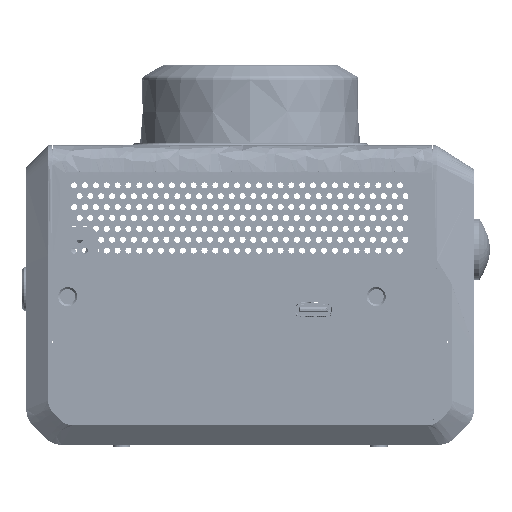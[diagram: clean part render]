
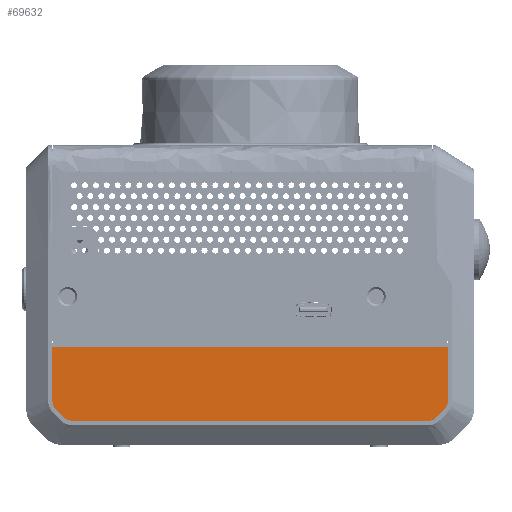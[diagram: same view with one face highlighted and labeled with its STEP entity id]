
A CAD part, front view. The second image highlights one B-rep face of the part: STEP entity #69632.
In plain terms, the highlighted planar face has unit normal (0, -1, 0).
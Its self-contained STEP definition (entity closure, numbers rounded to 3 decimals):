
#23690=FACE_OUTER_BOUND('',#88707,.T.);
#32304=LINE('',#345710,#49493);
#32851=LINE('',#347682,#50040);
#32855=LINE('',#347737,#50044);
#32856=LINE('',#347739,#50045);
#49493=VECTOR('',#227281,1.);
#50040=VECTOR('',#228848,1.);
#50044=VECTOR('',#228854,1.);
#50045=VECTOR('',#228857,1.);
#63959=PLANE('',#203799);
#69632=ADVANCED_FACE('',(#23690),#63959,.T.);
#79281=B_SPLINE_CURVE_WITH_KNOTS('',3,(#347688,#347689,#347690,#347691,
#347692,#347693,#347694,#347695,#347696,#347697,#347698,#347699,#347700,
#347701,#347702,#347703,#347704,#347705,#347706),.UNSPECIFIED.,.F.,.F.,
(4,3,3,3,3,3,4),(0.,0.134,0.303,0.501,
0.734,0.874,1.),.UNSPECIFIED.);
#79282=B_SPLINE_CURVE_WITH_KNOTS('',3,(#347741,#347742,#347743,#347744,
#347745,#347746,#347747,#347748,#347749,#347750),.UNSPECIFIED.,.F.,.F.,
(4,2,2,2,4),(0.,0.25,0.5,0.75,1.),.UNSPECIFIED.);
#88707=EDGE_LOOP('',(#109588,#109589,#109590,#109591,#109592,#109593));
#109588=ORIENTED_EDGE('',*,*,#169760,.F.);
#109589=ORIENTED_EDGE('',*,*,#170603,.F.);
#109590=ORIENTED_EDGE('',*,*,#170604,.F.);
#109591=ORIENTED_EDGE('',*,*,#170597,.F.);
#109592=ORIENTED_EDGE('',*,*,#170600,.F.);
#109593=ORIENTED_EDGE('',*,*,#170602,.F.);
#144195=VERTEX_POINT('',#345709);
#144196=VERTEX_POINT('',#345711);
#144684=VERTEX_POINT('',#347683);
#144685=VERTEX_POINT('',#347684);
#144686=VERTEX_POINT('',#347707);
#144687=VERTEX_POINT('',#347740);
#169760=EDGE_CURVE('',#144195,#144196,#32304,.T.);
#170597=EDGE_CURVE('',#144684,#144685,#32851,.T.);
#170600=EDGE_CURVE('',#144686,#144684,#79281,.T.);
#170602=EDGE_CURVE('',#144196,#144686,#32855,.T.);
#170603=EDGE_CURVE('',#144687,#144195,#32856,.T.);
#170604=EDGE_CURVE('',#144685,#144687,#79282,.T.);
#203799=AXIS2_PLACEMENT_3D('',#347751,#228858,#228859);
#227281=DIRECTION('',(1.,0.,0.));
#228848=DIRECTION('',(-1.,0.,0.));
#228854=DIRECTION('',(0.,0.,-1.));
#228857=DIRECTION('',(0.,0.,1.));
#228858=DIRECTION('',(0.,-1.,0.));
#228859=DIRECTION('',(-1.,0.,0.));
#345709=CARTESIAN_POINT('',(-45.5,-48.,-52.5));
#345710=CARTESIAN_POINT('',(4.,-48.,-52.5));
#345711=CARTESIAN_POINT('',(45.5,-48.,-52.5));
#347682=CARTESIAN_POINT('',(-32.843,-48.,-69.5));
#347683=CARTESIAN_POINT('',(40.843,-48.,-69.5));
#347684=CARTESIAN_POINT('',(-40.843,-48.,-69.5));
#347688=CARTESIAN_POINT('',(45.5,-48.,-64.843));
#347689=CARTESIAN_POINT('',(45.5,-48.,-65.155));
#347690=CARTESIAN_POINT('',(45.454,-48.,-65.471));
#347691=CARTESIAN_POINT('',(45.357,-48.,-65.768));
#347692=CARTESIAN_POINT('',(45.235,-48.,-66.14));
#347693=CARTESIAN_POINT('',(45.033,-48.,-66.493));
#347694=CARTESIAN_POINT('',(44.777,-48.,-66.789));
#347695=CARTESIAN_POINT('',(44.471,-48.,-67.144));
#347696=CARTESIAN_POINT('',(44.124,-48.,-67.462));
#347697=CARTESIAN_POINT('',(43.793,-48.,-67.793));
#347698=CARTESIAN_POINT('',(43.405,-48.,-68.181));
#347699=CARTESIAN_POINT('',(43.041,-48.,-68.603));
#347700=CARTESIAN_POINT('',(42.599,-48.,-68.929));
#347701=CARTESIAN_POINT('',(42.335,-48.,-69.124));
#347702=CARTESIAN_POINT('',(42.034,-48.,-69.276));
#347703=CARTESIAN_POINT('',(41.72,-48.,-69.372));
#347704=CARTESIAN_POINT('',(41.438,-48.,-69.459));
#347705=CARTESIAN_POINT('',(41.138,-48.,-69.5));
#347706=CARTESIAN_POINT('',(40.843,-48.,-69.5));
#347707=CARTESIAN_POINT('',(45.5,-48.,-64.843));
#347737=CARTESIAN_POINT('',(45.5,-48.,-64.843));
#347739=CARTESIAN_POINT('',(-45.5,-48.,-41.));
#347740=CARTESIAN_POINT('',(-45.5,-48.,-64.843));
#347741=CARTESIAN_POINT('',(-40.843,-48.,-69.5));
#347742=CARTESIAN_POINT('',(-41.432,-48.,-69.5));
#347743=CARTESIAN_POINT('',(-42.011,-48.,-69.329));
#347744=CARTESIAN_POINT('',(-42.979,-48.,-68.677));
#347745=CARTESIAN_POINT('',(-43.367,-48.,-68.219));
#347746=CARTESIAN_POINT('',(-44.198,-48.,-67.388));
#347747=CARTESIAN_POINT('',(-44.651,-48.,-67.005));
#347748=CARTESIAN_POINT('',(-45.319,-48.,-66.036));
#347749=CARTESIAN_POINT('',(-45.5,-48.,-65.442));
#347750=CARTESIAN_POINT('',(-45.5,-48.,-64.843));
#347751=CARTESIAN_POINT('',(46.5,-48.,-41.));
